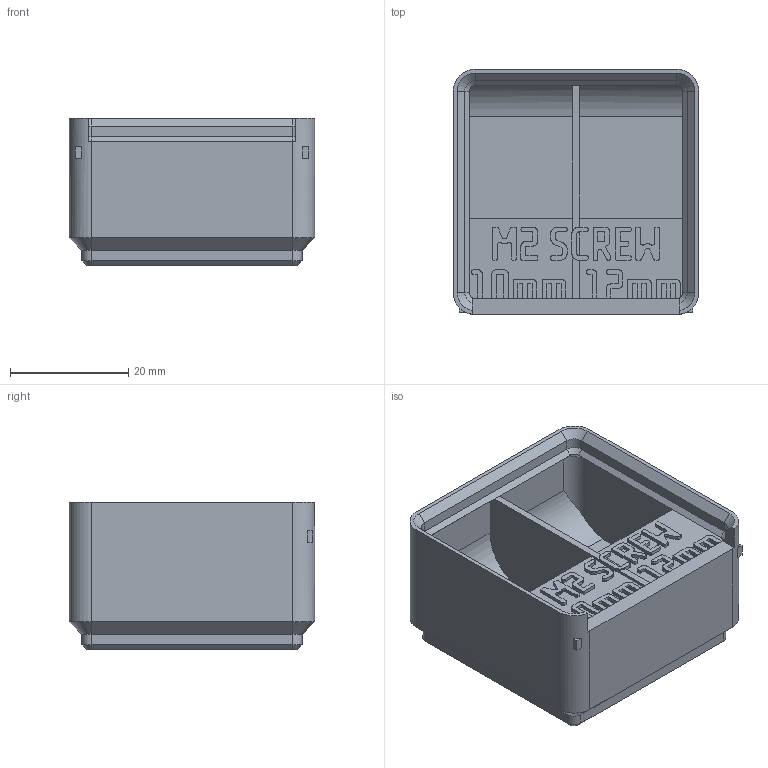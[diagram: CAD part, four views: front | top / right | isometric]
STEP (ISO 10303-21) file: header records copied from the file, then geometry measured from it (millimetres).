
FILE_DESCRIPTION(('Open CASCADE Model'),'2;1');
FILE_NAME('Open CASCADE Shape Model','2026-11-03T10:34:32',('Author'),( 'Open CASCADE'),'Open CASCADE STEP processor 8.0','build123d', 'Unknown');
FILE_SCHEMA(('AUTOMOTIVE_DESIGN { 1 0 10303 214 1 1 1 1 }'));
Products named in the file (1): COMPOUND
Bounding box: 41.5 x 41.5 x 24.9 mm (x, y, z)
Volume: 13706.8 mm3; surface area: 12150.5 mm2
Topology: 1 solids, 1 shells, 1611 faces, 4779 edges, 3170 vertices
Faces by surface type: plane 1573, cone 20, cylinder 18
Entity records: 111502 total; most frequent: CARTESIAN_POINT 23527, DIRECTION 13726, LINE 10322, VECTOR 10322, ORIENTED_EDGE 9558, PCURVE 9558, DEFINITIONAL_REPRESENTATION 9558, EDGE_CURVE 4779
